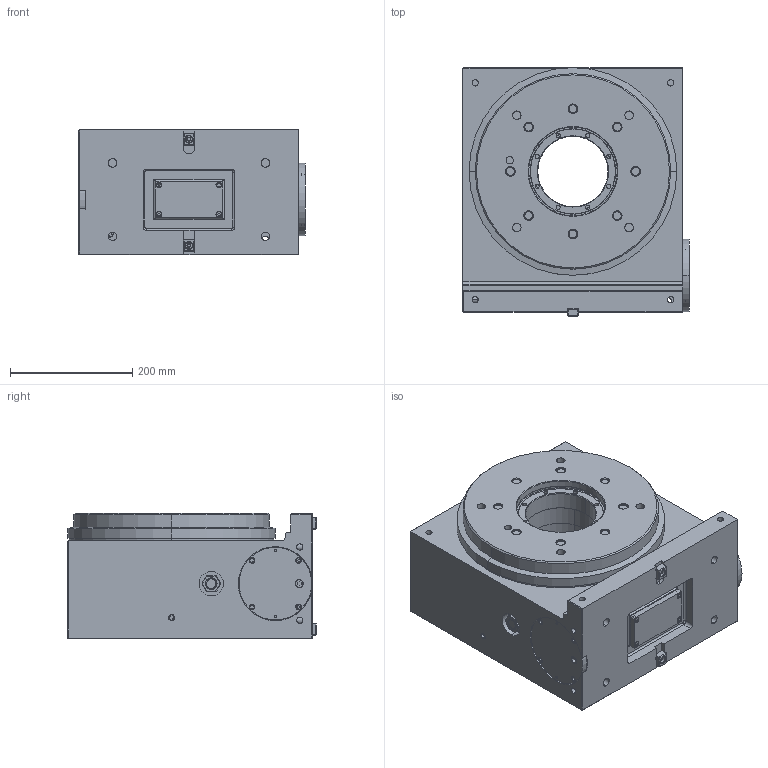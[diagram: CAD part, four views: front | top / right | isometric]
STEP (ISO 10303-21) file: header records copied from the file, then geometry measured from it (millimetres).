
FILE_DESCRIPTION (( 'STEP AP203' ), '1' );
FILE_NAME ('15121335.STEP', '2020-12-06T22:56:03', ( '' ), ( '' ), 'SwSTEP 2.0', 'SolidWorks 2019', '' );
FILE_SCHEMA (( 'CONFIG_CONTROL_DESIGN' ));
Length unit declared in the file: millimetre
Products named in the file (1): 15121335
Bounding box: 370 x 407 x 205 mm (x, y, z)
Surface area: 773731.6 mm2 (no closed solid volume)
Topology: 0 solids, 70 shells, 749 faces, 2052 edges, 1388 vertices
Faces by surface type: plane 366, cylinder 214, cone 121, torus 44, sphere 4
Entity records: 23881 total; most frequent: DIRECTION 4391, CARTESIAN_POINT 4250, ORIENTED_EDGE 3484, EDGE_CURVE 2042, AXIS2_PLACEMENT_3D 1619, VERTEX_POINT 1382, VECTOR 1153, LINE 1153
